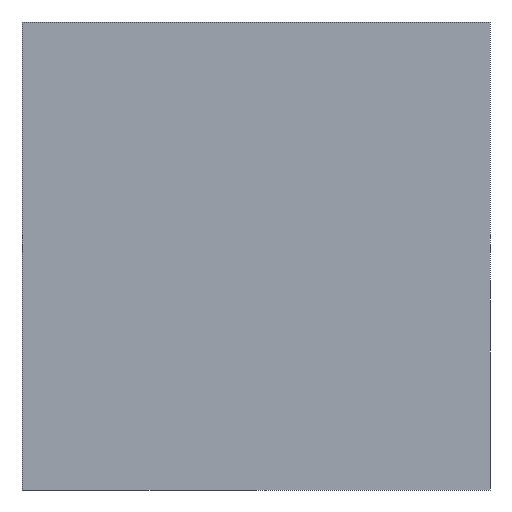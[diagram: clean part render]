
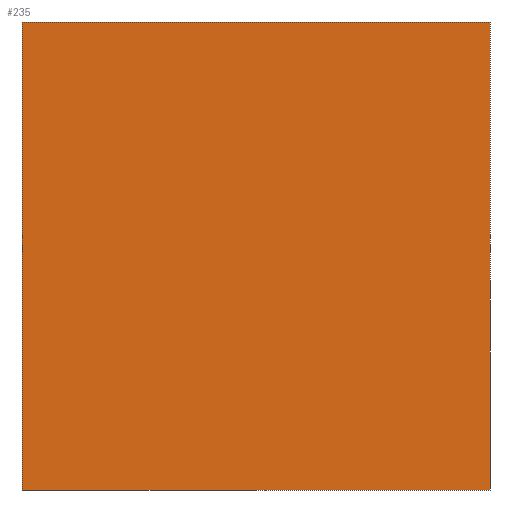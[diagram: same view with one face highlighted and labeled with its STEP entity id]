
A CAD part, left-side view. The second image highlights one B-rep face of the part: STEP entity #235.
In plain terms, the highlighted planar face has unit normal (-1, 0, 0).
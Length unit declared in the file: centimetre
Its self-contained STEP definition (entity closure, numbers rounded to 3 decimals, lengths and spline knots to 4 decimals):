
#12 = CARTESIAN_POINT ( 'NONE',  ( 0., 1000., 1000. ) ) ;
#23 = CARTESIAN_POINT ( 'NONE',  ( 0., 0., 1000. ) ) ;
#52 = ORIENTED_EDGE ( 'NONE', *, *, #768, .F. ) ;
#89 = VERTEX_POINT ( 'NONE', #23 ) ;
#139 = DIRECTION ( 'NONE',  ( 0., 0., -1. ) ) ;
#150 = AXIS2_PLACEMENT_3D ( 'NONE', #12, #736, #139 ) ;
#189 = LINE ( 'NONE', #844, #558 ) ;
#191 = CARTESIAN_POINT ( 'NONE',  ( 0., 1000., 0. ) ) ;
#205 = CARTESIAN_POINT ( 'NONE',  ( 0., 1000., 0. ) ) ;
#214 = EDGE_CURVE ( 'NONE', #735, #89, #189, .T. ) ;
#228 = EDGE_LOOP ( 'NONE', ( #270, #52, #339, #592 ) ) ;
#235 = ADVANCED_FACE ( 'NONE', ( #469 ), #474, .F. ) ;
#242 = LINE ( 'NONE', #334, #495 ) ;
#270 = ORIENTED_EDGE ( 'NONE', *, *, #382, .T. ) ;
#283 = DIRECTION ( 'NONE',  ( 0., 0., -1. ) ) ;
#334 = CARTESIAN_POINT ( 'NONE',  ( 0., 0., 1000. ) ) ;
#339 = ORIENTED_EDGE ( 'NONE', *, *, #214, .F. ) ;
#382 = EDGE_CURVE ( 'NONE', #690, #529, #745, .T. ) ;
#389 = DIRECTION ( 'NONE',  ( 0., 0., -1. ) ) ;
#433 = VECTOR ( 'NONE', #283, 100. ) ;
#442 = CARTESIAN_POINT ( 'NONE',  ( 0., 1000., 1000. ) ) ;
#469 = FACE_OUTER_BOUND ( 'NONE', #228, .T. ) ;
#474 = PLANE ( 'NONE',  #150 ) ;
#493 = EDGE_CURVE ( 'NONE', #735, #690, #751, .T. ) ;
#495 = VECTOR ( 'NONE', #389, 100. ) ;
#529 = VERTEX_POINT ( 'NONE', #818 ) ;
#558 = VECTOR ( 'NONE', #641, 100. ) ;
#592 = ORIENTED_EDGE ( 'NONE', *, *, #493, .T. ) ;
#641 = DIRECTION ( 'NONE',  ( 0., -1., 0. ) ) ;
#690 = VERTEX_POINT ( 'NONE', #191 ) ;
#735 = VERTEX_POINT ( 'NONE', #442 ) ;
#736 = DIRECTION ( 'NONE',  ( 1., 0., 0. ) ) ;
#745 = LINE ( 'NONE', #205, #816 ) ;
#751 = LINE ( 'NONE', #809, #433 ) ;
#768 = EDGE_CURVE ( 'NONE', #89, #529, #242, .T. ) ;
#809 = CARTESIAN_POINT ( 'NONE',  ( 0., 1000., 1000. ) ) ;
#811 = DIRECTION ( 'NONE',  ( 0., -1., 0. ) ) ;
#816 = VECTOR ( 'NONE', #811, 100. ) ;
#818 = CARTESIAN_POINT ( 'NONE',  ( 0., 0., 0. ) ) ;
#844 = CARTESIAN_POINT ( 'NONE',  ( 0., 1000., 1000. ) ) ;
